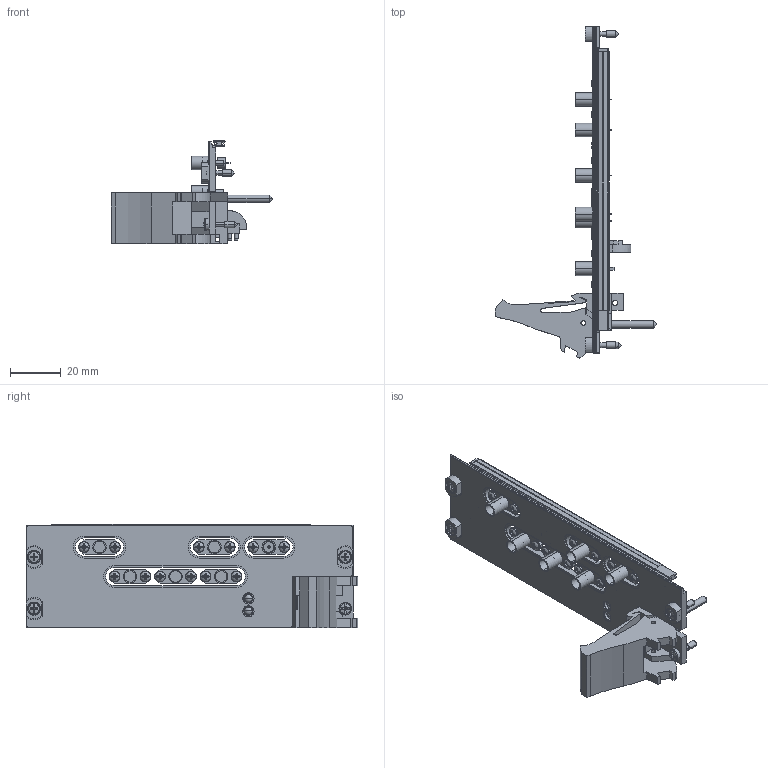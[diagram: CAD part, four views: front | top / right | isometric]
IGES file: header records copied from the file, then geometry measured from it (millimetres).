
Start section:  PTC IGES file: cu_pxi-5610.igs
Global section: file name: cu_pxi-5610.igs; native system: Pro/ENGINEER by Parametric Technology Corporation; preprocessor: 2006080; author: jjorden; organization: Unknown; date: 091231.095049; units: inch
Bounding box: 63.53 x 130.5 x 40.63 mm (x, y, z)
Surface area: 24817.9 mm2 (no closed solid volume)
Topology: 0 solids, 0 shells, 1315 faces, 6440 edges, 6188 vertices
Faces by surface type: bspline 936, revolution 379
